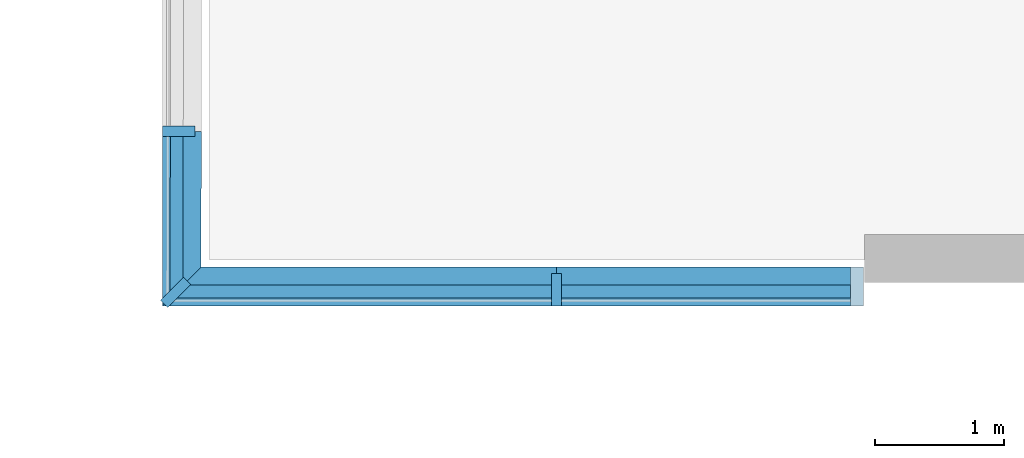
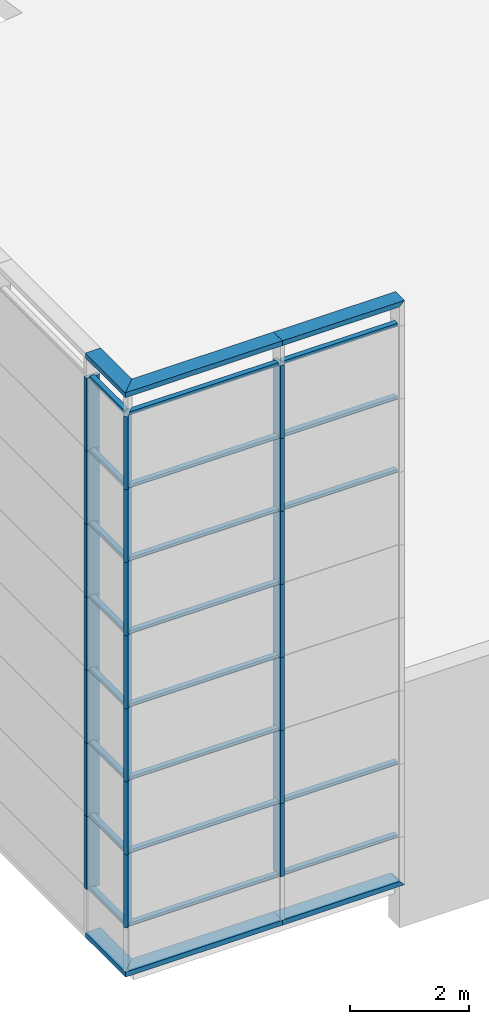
# One storey, part 1 of 27: 48 members, 1 element without a shape of its own.
"""IFC2X3 building model written with IfcOpenShell, lengths in metres."""

from ifc_helpers import new_model, entity, si_unit, converted_unit, money_unit, direction, frame, origin_with_axes, place, context, subcontext, project, spatial, polyline, outline, extrude, clip, halfspace, material, type_object, element, aggregate, save


model = new_model("IFC2X3")

# Units and contexts
model_context = context("Model", 3, precision=1e-05, world=origin_with_axes(), true_north=direction((0.0, 1.0)))
body_context = subcontext(model_context, "Body", "Model", "MODEL_VIEW")
ifc_project = project(units=[si_unit("LENGTHUNIT", "METRE"), si_unit("AREAUNIT", "SQUARE_METRE"), si_unit("VOLUMEUNIT", "CUBIC_METRE"), converted_unit("PLANEANGLEUNIT", "DEGREE", entity("IfcPlaneAngleMeasure", 0.0174532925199), si_unit("PLANEANGLEUNIT", "RADIAN"), dimensions=[0, 0, 0, 0, 0, 0, 0]), si_unit("SOLIDANGLEUNIT", "STERADIAN"), money_unit("EUR"), converted_unit("TIMEUNIT", "Year", entity("IfcTimeMeasure", 31556926.0), si_unit("TIMEUNIT", "SECOND"), dimensions=[0, 0, 0, 0, 0, 0, 0]), si_unit("MASSUNIT", "GRAM"), si_unit("THERMODYNAMICTEMPERATUREUNIT", "DEGREE_CELSIUS"), si_unit("LUMINOUSINTENSITYUNIT", "LUMEN")], contexts=[model_context])

# Site, building, storey
site_placement = place(None, origin_with_axes())
site = spatial("IfcSite", under=ifc_project, at=site_placement, Name="Undefined", CompositionType="ELEMENT")
building_placement = place(site_placement, origin_with_axes())
building = spatial("IfcBuilding", under=site, at=building_placement, Name="Undefined", CompositionType="ELEMENT")
storey_placement = place(building_placement, frame((0.0, 0.0, 5.4), z_axis=(0.0, 0.0, 1.0), x_axis=(1.0, 0.0, 0.0)))
storey = spatial("IfcBuildingStorey", under=building, at=storey_placement, Name="R+1", CompositionType="ELEMENT", Elevation=5.4)

# Curtain wall, members
curtain_wall_type = type_object("IfcCurtainWallType", Name="Type de mur-rideau", PredefinedType="NOTDEFINED")
curtain_wall_placement = place(storey_placement, frame((-0.508840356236, 0.150119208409, 0.0), z_axis=(0.0, 0.0, 1.0), x_axis=(1.0, 0.0, 0.0)))
curtain_wall = element("IfcCurtainWall", 1, at=curtain_wall_placement, inside=storey, type_object=curtain_wall_type, Name="CurtainWall_01", ObjectType="CURTAIN WALL")
ifc_material = material(Name="25 % 359672764")
member_type_1 = type_object("IfcMemberType", Name="Cadre 100 x 300", PredefinedType="NOTDEFINED")
member_1_placement = place(curtain_wall_placement, frame((0.00086430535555, 0.650119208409, 0.0), z_axis=(-0.00132945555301, -0.999999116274, 0.0), x_axis=(0.0, 0.0, 1.0)))
member_1 = element("IfcMember", 2, at=member_1_placement, type_object=member_type_1, material=ifc_material, Name="Frame-Bnd-833", context=body_context, shape_type="Clipping", body=[
    clip(extrude(outline(polyline([(-0.25, -0.1), (0.05, -0.1), (0.05, 0.0), (-0.25, 0.0), (-0.25, -0.1)])), frame((0.0, 0.0, 0.0), z_axis=(0.0, 0.0, 1.0), x_axis=(0.0, 1.0, 0.0)), (0.0, 0.0, 1.0), 1.3503060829), halfspace(frame((0.0, -0.650119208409, 0.649255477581), z_axis=(0.0, 0.707576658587, -0.706636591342), x_axis=(0.0, 0.706636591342, 0.707576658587)), True)),
])
member_2_placement = place(curtain_wall_placement, frame((2.99946827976, -0.650119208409, 12.0000000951), z_axis=(-1.0, 0.0, -3.17092450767e-08), x_axis=(3.17092450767e-08, 0.0, -1.0)))
member_2 = element("IfcMember", 3, at=member_2_placement, type_object=member_type_1, material=ifc_material, Name="Frame-Bnd-985", context=body_context, shape_type="Clipping", body=[
    clip(extrude(outline(polyline([(0.25, 0.1), (-0.05, 0.1), (-0.05, 0.0), (0.25, 0.0), (0.25, 0.1)])), frame((0.0, 0.0, 0.0), z_axis=(0.0, 0.0, 1.0), x_axis=(0.0, -1.0, 0.0)), (0.0, 0.0, 1.0), 3.05039910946), halfspace(frame((-1.09703552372e-07, -1.50016496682, 1.49817188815), z_axis=(5.17434247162e-08, 0.707576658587, -0.706636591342), x_axis=(0.0, 0.706636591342, 0.707576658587)), True)),
])
member_3_placement = place(curtain_wall_placement, frame((2.99946827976, -0.650119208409, 0.0), z_axis=(1.0, 0.0, 0.0), x_axis=(0.0, 0.0, 1.0)))
member_3 = element("IfcMember", 4, at=member_3_placement, type_object=member_type_1, material=ifc_material, Name="Frame-Bnd-890", context=body_context, shape_type="Clipping", body=[
    clip(extrude(outline(polyline([(-0.25, -0.1), (0.05, -0.1), (0.05, 0.0), (-0.25, 0.0), (-0.25, -0.1)])), frame((0.0, 0.0, 0.0), z_axis=(0.0, 0.0, 1.0), x_axis=(0.0, 1.0, 0.0)), (0.0, 0.0, 1.0), 2.37499991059), halfspace(frame((1.1874999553, 0.0, 1.18750006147), z_axis=(-0.707106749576, 0.0, -0.707106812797), x_axis=(0.0, 1.0, 0.0)), True)),
])
member_4_placement = place(curtain_wall_placement, frame((-0.00086430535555, -0.650119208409, 12.0), z_axis=(0.00132945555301, 0.999999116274, 7.31697493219e-08), x_axis=(0.0, 7.31696846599e-08, -1.0)))
member_4 = element("IfcMember", 5, at=member_4_placement, type_object=member_type_1, material=ifc_material, Name="Frame-Bnd-936", context=body_context, shape_type="Clipping", body=[
    clip(extrude(outline(polyline([(0.25, 0.1), (-0.05, 0.1), (-0.05, 0.0), (0.25, 0.0), (0.25, 0.1)])), frame((0.0, 0.0, -0.0500665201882), z_axis=(0.0, 0.0, 1.0), x_axis=(0.0, -1.0, 0.0)), (0.0, 0.0, 1.0), 1.35030608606), halfspace(frame((0.0, 0.0, 0.0), z_axis=(2.23679111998e-08, 0.707576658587, 0.706636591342), x_axis=(0.0, -0.706636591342, 0.707576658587)), True)),
])
member_5_placement = place(curtain_wall_placement, frame((5.37446817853, -0.650119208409, 12.0000000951), z_axis=(-1.0, 0.0, 0.0), x_axis=(0.0, 0.0, -1.0)))
member_5 = element("IfcMember", 6, at=member_5_placement, type_object=member_type_1, material=ifc_material, Name="Frame-Bnd-986", context=body_context, shape_type="Clipping", body=[
    clip(extrude(outline(polyline([(0.25, 0.1), (-0.05, 0.1), (-0.05, 0.0), (0.25, 0.0), (0.25, 0.1)])), frame((0.0, 0.0, 0.0), z_axis=(0.0, 0.0, 1.0), x_axis=(0.0, -1.0, 0.0)), (0.0, 0.0, 1.0), 2.37499989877), halfspace(frame((0.0, 0.0, 0.0), z_axis=(-0.707106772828, 0.0, 0.707106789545), x_axis=(0.0, -1.0, 0.0)), True)),
])
member_6_placement = place(curtain_wall_placement, frame((-0.00086430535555, -0.650119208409, 0.0), z_axis=(1.0, 0.0, 0.0), x_axis=(0.0, 0.0, 1.0)))
member_6 = element("IfcMember", 7, at=member_6_placement, type_object=member_type_1, material=ifc_material, Name="Frame-Bnd-891", context=body_context, shape_type="Clipping", body=[
    clip(extrude(outline(polyline([(-0.25, -0.1), (0.05, -0.1), (0.05, 0.0), (-0.25, 0.0), (-0.25, -0.1)])), frame((0.0, 0.0, -0.0500665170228), z_axis=(0.0, 0.0, 1.0), x_axis=(0.0, 1.0, 0.0)), (0.0, 0.0, 1.0), 3.05039910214), halfspace(frame((0.0, 0.0, 0.0), z_axis=(0.0, 0.707576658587, 0.706636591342), x_axis=(0.0, -0.706636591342, 0.707576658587)), True)),
])
member_type_2 = type_object("IfcMemberType", Name="Montant 80 x 250", PredefinedType="NOTDEFINED")
member_7_placement = place(curtain_wall_placement, frame((-0.00086430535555, -0.650119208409, 1.00000002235), z_axis=(0.0, 0.0, 1.0), x_axis=(-0.706636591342, 0.707576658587, 0.0)))
member_7 = element("IfcMember", 8, at=member_7_placement, type_object=member_type_2, material=ifc_material, Name="Frame-Mll-361", context=body_context, shape_type="SweptSolid", body=[
    extrude(outline(polyline([(0.113249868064, 0.169630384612), (-0.063644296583, -0.00702876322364), (-0.00711336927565, -0.0636348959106), (0.169780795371, 0.113024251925), (0.113249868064, 0.169630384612)])), frame((0.0, 0.0, 0.0), z_axis=(0.0, 0.0, 1.0), x_axis=(-0.706636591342, -0.707576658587, 0.0)), (0.0, 0.0, 1.0), 1.5),
])
member_8_placement = place(curtain_wall_placement, frame((0.00086430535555, 0.650119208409, 1.00000002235), z_axis=(0.0, 0.0, 1.0), x_axis=(0.00132945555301, 0.999999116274, 0.0)))
member_8 = element("IfcMember", 9, at=member_8_placement, type_object=member_type_2, material=ifc_material, Name="Frame-Mll-134", context=body_context, shape_type="SweptSolid", body=[
    extrude(outline(polyline([(0.200053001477, 0.0397340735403), (-0.0499467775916, 0.0400664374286), (-0.0500531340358, -0.0399334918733), (0.199946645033, -0.0402658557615), (0.200053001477, 0.0397340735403)])), frame((0.0, 0.0, 0.0), z_axis=(0.0, 0.0, 1.0), x_axis=(0.00132945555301, -0.999999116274, 0.0)), (0.0, 0.0, 1.0), 1.5),
])
member_9_placement = place(curtain_wall_placement, frame((2.99946827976, -0.650119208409, 1.00000002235), z_axis=(0.0, 0.0, 1.0), x_axis=(-1.0, 0.0, 0.0)))
member_9 = element("IfcMember", 10, at=member_9_placement, type_object=member_type_2, material=ifc_material, Name="Frame-Mll-146", context=body_context, shape_type="SweptSolid", body=[
    extrude(outline(polyline([(-0.04, 0.2), (-0.04, -0.05), (0.04, -0.05), (0.04, 0.2), (-0.04, 0.2)])), frame((0.0, 0.0, 0.0), z_axis=(0.0, 0.0, 1.0), x_axis=(-1.0, 0.0, 0.0)), (0.0, 0.0, 1.0), 1.5),
])
member_10_placement = place(curtain_wall_placement, frame((-0.00086430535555, -0.650119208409, 2.50000002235), z_axis=(0.0, 0.0, 1.0), x_axis=(-0.706636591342, 0.707576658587, 0.0)))
member_10 = element("IfcMember", 11, at=member_10_placement, type_object=member_type_2, material=ifc_material, Name="Frame-Mll-361", context=body_context, shape_type="SweptSolid", body=[
    extrude(outline(polyline([(0.113249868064, 0.169630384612), (-0.063644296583, -0.00702876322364), (-0.00711336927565, -0.0636348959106), (0.169780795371, 0.113024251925), (0.113249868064, 0.169630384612)])), frame((0.0, 0.0, 0.0), z_axis=(0.0, 0.0, 1.0), x_axis=(-0.706636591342, -0.707576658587, 0.0)), (0.0, 0.0, 1.0), 1.5),
])
member_11_placement = place(curtain_wall_placement, frame((0.00086430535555, 0.650119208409, 2.50000002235), z_axis=(0.0, 0.0, 1.0), x_axis=(0.00132945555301, 0.999999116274, 0.0)))
member_11 = element("IfcMember", 12, at=member_11_placement, type_object=member_type_2, material=ifc_material, Name="Frame-Mll-173", context=body_context, shape_type="SweptSolid", body=[
    extrude(outline(polyline([(0.200053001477, 0.0397340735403), (-0.0499467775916, 0.0400664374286), (-0.0500531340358, -0.0399334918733), (0.199946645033, -0.0402658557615), (0.200053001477, 0.0397340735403)])), frame((0.0, 0.0, 0.0), z_axis=(0.0, 0.0, 1.0), x_axis=(0.00132945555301, -0.999999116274, 0.0)), (0.0, 0.0, 1.0), 1.5),
])
member_12_placement = place(curtain_wall_placement, frame((0.00086430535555, 0.650119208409, 4.00000002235), z_axis=(0.0, 0.0, 1.0), x_axis=(0.00132945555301, 0.999999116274, 0.0)))
member_12 = element("IfcMember", 13, at=member_12_placement, type_object=member_type_2, material=ifc_material, Name="Frame-Mll-174", context=body_context, shape_type="SweptSolid", body=[
    extrude(outline(polyline([(0.200053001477, 0.0397340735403), (-0.0499467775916, 0.0400664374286), (-0.0500531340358, -0.0399334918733), (0.199946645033, -0.0402658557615), (0.200053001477, 0.0397340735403)])), frame((0.0, 0.0, 0.0), z_axis=(0.0, 0.0, 1.0), x_axis=(0.00132945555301, -0.999999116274, 0.0)), (0.0, 0.0, 1.0), 1.5),
])
member_13_placement = place(curtain_wall_placement, frame((0.00086430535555, 0.650119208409, 5.50000002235), z_axis=(0.0, 0.0, 1.0), x_axis=(0.00132945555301, 0.999999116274, 0.0)))
member_13 = element("IfcMember", 14, at=member_13_placement, type_object=member_type_2, material=ifc_material, Name="Frame-Mll-175", context=body_context, shape_type="SweptSolid", body=[
    extrude(outline(polyline([(0.200053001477, 0.0397340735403), (-0.0499467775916, 0.0400664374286), (-0.0500531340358, -0.0399334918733), (0.199946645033, -0.0402658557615), (0.200053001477, 0.0397340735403)])), frame((0.0, 0.0, 0.0), z_axis=(0.0, 0.0, 1.0), x_axis=(0.00132945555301, -0.999999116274, 0.0)), (0.0, 0.0, 1.0), 1.5),
])
member_14_placement = place(curtain_wall_placement, frame((0.00086430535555, 0.650119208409, 7.00000002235), z_axis=(0.0, 0.0, 1.0), x_axis=(0.00132945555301, 0.999999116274, 0.0)))
member_14 = element("IfcMember", 15, at=member_14_placement, type_object=member_type_2, material=ifc_material, Name="Frame-Mll-176", context=body_context, shape_type="SweptSolid", body=[
    extrude(outline(polyline([(0.200053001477, 0.0397340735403), (-0.0499467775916, 0.0400664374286), (-0.0500531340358, -0.0399334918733), (0.199946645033, -0.0402658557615), (0.200053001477, 0.0397340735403)])), frame((0.0, 0.0, 0.0), z_axis=(0.0, 0.0, 1.0), x_axis=(0.00132945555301, -0.999999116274, 0.0)), (0.0, 0.0, 1.0), 1.5),
])
member_15_placement = place(curtain_wall_placement, frame((0.00086430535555, 0.650119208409, 8.50000002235), z_axis=(0.0, 0.0, 1.0), x_axis=(0.00132945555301, 0.999999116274, 0.0)))
member_15 = element("IfcMember", 16, at=member_15_placement, type_object=member_type_2, material=ifc_material, Name="Frame-Mll-177", context=body_context, shape_type="SweptSolid", body=[
    extrude(outline(polyline([(0.200053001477, 0.0397340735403), (-0.0499467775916, 0.0400664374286), (-0.0500531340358, -0.0399334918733), (0.199946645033, -0.0402658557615), (0.200053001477, 0.0397340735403)])), frame((0.0, 0.0, 0.0), z_axis=(0.0, 0.0, 1.0), x_axis=(0.00132945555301, -0.999999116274, 0.0)), (0.0, 0.0, 1.0), 1.5),
])
member_16_placement = place(curtain_wall_placement, frame((0.00086430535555, 0.650119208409, 10.0000000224), z_axis=(0.0, 0.0, 1.0), x_axis=(0.00132945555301, 0.999999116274, 0.0)))
member_16 = element("IfcMember", 17, at=member_16_placement, type_object=member_type_2, material=ifc_material, Name="Frame-Mll-178", context=body_context, shape_type="SweptSolid", body=[
    extrude(outline(polyline([(0.200053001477, 0.0397340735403), (-0.0499467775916, 0.0400664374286), (-0.0500531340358, -0.0399334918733), (0.199946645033, -0.0402658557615), (0.200053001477, 0.0397340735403)])), frame((0.0, 0.0, 0.0), z_axis=(0.0, 0.0, 1.0), x_axis=(0.00132945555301, -0.999999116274, 0.0)), (0.0, 0.0, 1.0), 1.5),
])
member_17_placement = place(curtain_wall_placement, frame((-0.00086430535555, -0.650119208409, 4.00000002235), z_axis=(0.0, 0.0, 1.0), x_axis=(-0.706636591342, 0.707576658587, 0.0)))
member_17 = element("IfcMember", 18, at=member_17_placement, type_object=member_type_2, material=ifc_material, Name="Frame-Mll-361", context=body_context, shape_type="SweptSolid", body=[
    extrude(outline(polyline([(0.113249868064, 0.169630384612), (-0.063644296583, -0.00702876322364), (-0.00711336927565, -0.0636348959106), (0.169780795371, 0.113024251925), (0.113249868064, 0.169630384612)])), frame((0.0, 0.0, 0.0), z_axis=(0.0, 0.0, 1.0), x_axis=(-0.706636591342, -0.707576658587, 0.0)), (0.0, 0.0, 1.0), 1.5),
])
member_18_placement = place(curtain_wall_placement, frame((-0.00086430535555, -0.650119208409, 5.50000002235), z_axis=(0.0, 0.0, 1.0), x_axis=(-0.706636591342, 0.707576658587, 0.0)))
member_18 = element("IfcMember", 19, at=member_18_placement, type_object=member_type_2, material=ifc_material, Name="Frame-Mll-361", context=body_context, shape_type="SweptSolid", body=[
    extrude(outline(polyline([(0.113249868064, 0.169630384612), (-0.063644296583, -0.00702876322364), (-0.00711336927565, -0.0636348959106), (0.169780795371, 0.113024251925), (0.113249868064, 0.169630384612)])), frame((0.0, 0.0, 0.0), z_axis=(0.0, 0.0, 1.0), x_axis=(-0.706636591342, -0.707576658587, 0.0)), (0.0, 0.0, 1.0), 1.5),
])
member_19_placement = place(curtain_wall_placement, frame((-0.00086430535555, -0.650119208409, 7.00000002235), z_axis=(0.0, 0.0, 1.0), x_axis=(-0.706636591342, 0.707576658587, 0.0)))
member_19 = element("IfcMember", 20, at=member_19_placement, type_object=member_type_2, material=ifc_material, Name="Frame-Mll-361", context=body_context, shape_type="SweptSolid", body=[
    extrude(outline(polyline([(0.113249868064, 0.169630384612), (-0.063644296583, -0.00702876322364), (-0.00711336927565, -0.0636348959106), (0.169780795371, 0.113024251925), (0.113249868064, 0.169630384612)])), frame((0.0, 0.0, 0.0), z_axis=(0.0, 0.0, 1.0), x_axis=(-0.706636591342, -0.707576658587, 0.0)), (0.0, 0.0, 1.0), 1.5),
])
member_20_placement = place(curtain_wall_placement, frame((-0.00086430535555, -0.650119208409, 8.50000002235), z_axis=(0.0, 0.0, 1.0), x_axis=(-0.706636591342, 0.707576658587, 0.0)))
member_20 = element("IfcMember", 21, at=member_20_placement, type_object=member_type_2, material=ifc_material, Name="Frame-Mll-361", context=body_context, shape_type="SweptSolid", body=[
    extrude(outline(polyline([(0.113249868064, 0.169630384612), (-0.063644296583, -0.00702876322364), (-0.00711336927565, -0.0636348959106), (0.169780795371, 0.113024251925), (0.113249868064, 0.169630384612)])), frame((0.0, 0.0, 0.0), z_axis=(0.0, 0.0, 1.0), x_axis=(-0.706636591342, -0.707576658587, 0.0)), (0.0, 0.0, 1.0), 1.5),
])
member_21_placement = place(curtain_wall_placement, frame((2.99946827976, -0.650119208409, 2.50000002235), z_axis=(0.0, 0.0, 1.0), x_axis=(-1.0, 0.0, 0.0)))
member_21 = element("IfcMember", 22, at=member_21_placement, type_object=member_type_2, material=ifc_material, Name="Frame-Mll-201", context=body_context, shape_type="SweptSolid", body=[
    extrude(outline(polyline([(-0.04, 0.2), (-0.04, -0.05), (0.04, -0.05), (0.04, 0.2), (-0.04, 0.2)])), frame((0.0, 0.0, 0.0), z_axis=(0.0, 0.0, 1.0), x_axis=(-1.0, 0.0, 0.0)), (0.0, 0.0, 1.0), 1.5),
])
member_22_placement = place(curtain_wall_placement, frame((2.99946827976, -0.650119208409, 4.00000002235), z_axis=(0.0, 0.0, 1.0), x_axis=(-1.0, 0.0, 0.0)))
member_22 = element("IfcMember", 23, at=member_22_placement, type_object=member_type_2, material=ifc_material, Name="Frame-Mll-202", context=body_context, shape_type="SweptSolid", body=[
    extrude(outline(polyline([(-0.04, 0.2), (-0.04, -0.05), (0.04, -0.05), (0.04, 0.2), (-0.04, 0.2)])), frame((0.0, 0.0, 0.0), z_axis=(0.0, 0.0, 1.0), x_axis=(-1.0, 0.0, 0.0)), (0.0, 0.0, 1.0), 1.5),
])
member_23_placement = place(curtain_wall_placement, frame((2.99946827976, -0.650119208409, 5.50000002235), z_axis=(0.0, 0.0, 1.0), x_axis=(-1.0, 0.0, 0.0)))
member_23 = element("IfcMember", 24, at=member_23_placement, type_object=member_type_2, material=ifc_material, Name="Frame-Mll-203", context=body_context, shape_type="SweptSolid", body=[
    extrude(outline(polyline([(-0.04, 0.2), (-0.04, -0.05), (0.04, -0.05), (0.04, 0.2), (-0.04, 0.2)])), frame((0.0, 0.0, 0.0), z_axis=(0.0, 0.0, 1.0), x_axis=(-1.0, 0.0, 0.0)), (0.0, 0.0, 1.0), 1.5),
])
member_24_placement = place(curtain_wall_placement, frame((2.99946827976, -0.650119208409, 7.00000002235), z_axis=(0.0, 0.0, 1.0), x_axis=(-1.0, 0.0, 0.0)))
member_24 = element("IfcMember", 25, at=member_24_placement, type_object=member_type_2, material=ifc_material, Name="Frame-Mll-204", context=body_context, shape_type="SweptSolid", body=[
    extrude(outline(polyline([(-0.04, 0.2), (-0.04, -0.05), (0.04, -0.05), (0.04, 0.2), (-0.04, 0.2)])), frame((0.0, 0.0, 0.0), z_axis=(0.0, 0.0, 1.0), x_axis=(-1.0, 0.0, 0.0)), (0.0, 0.0, 1.0), 1.5),
])
member_25_placement = place(curtain_wall_placement, frame((2.99946827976, -0.650119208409, 8.50000002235), z_axis=(0.0, 0.0, 1.0), x_axis=(-1.0, 0.0, 0.0)))
member_25 = element("IfcMember", 26, at=member_25_placement, type_object=member_type_2, material=ifc_material, Name="Frame-Mll-205", context=body_context, shape_type="SweptSolid", body=[
    extrude(outline(polyline([(-0.04, 0.2), (-0.04, -0.05), (0.04, -0.05), (0.04, 0.2), (-0.04, 0.2)])), frame((0.0, 0.0, 0.0), z_axis=(0.0, 0.0, 1.0), x_axis=(-1.0, 0.0, 0.0)), (0.0, 0.0, 1.0), 1.5),
])
member_26_placement = place(curtain_wall_placement, frame((2.99946827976, -0.650119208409, 10.0000000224), z_axis=(0.0, 0.0, 1.0), x_axis=(-1.0, 0.0, 0.0)))
member_26 = element("IfcMember", 27, at=member_26_placement, type_object=member_type_2, material=ifc_material, Name="Frame-Mll-206", context=body_context, shape_type="SweptSolid", body=[
    extrude(outline(polyline([(-0.04, 0.2), (-0.04, -0.05), (0.04, -0.05), (0.04, 0.2), (-0.04, 0.2)])), frame((0.0, 0.0, 0.0), z_axis=(0.0, 0.0, 1.0), x_axis=(-1.0, 0.0, 0.0)), (0.0, 0.0, 1.0), 1.5),
])
member_27_placement = place(curtain_wall_placement, frame((-0.00086430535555, -0.650119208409, 10.0000000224), z_axis=(0.0, 0.0, 1.0), x_axis=(-0.706636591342, 0.707576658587, 0.0)))
member_27 = element("IfcMember", 28, at=member_27_placement, type_object=member_type_2, material=ifc_material, Name="Frame-Mll-361", context=body_context, shape_type="SweptSolid", body=[
    extrude(outline(polyline([(0.113249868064, 0.169630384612), (-0.063644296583, -0.00702876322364), (-0.00711336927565, -0.0636348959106), (0.169780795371, 0.113024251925), (0.113249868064, 0.169630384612)])), frame((0.0, 0.0, 0.0), z_axis=(0.0, 0.0, 1.0), x_axis=(-0.706636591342, -0.707576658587, 0.0)), (0.0, 0.0, 1.0), 1.5),
])
member_type_3 = type_object("IfcMemberType", Name="Traverse 60 x 100", PredefinedType="NOTDEFINED")
member_28_placement = place(curtain_wall_placement, frame((0.00086430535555, 0.650119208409, 1.00000002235), z_axis=(-0.00132945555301, -0.999999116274, 0.0), x_axis=(0.0, 0.0, 1.0)))
member_28 = element("IfcMember", 29, at=member_28_placement, type_object=member_type_3, material=ifc_material, Name="Frame-Trs-424", context=body_context, shape_type="Clipping", body=[
    clip(extrude(outline(polyline([(-0.11, -0.03), (-0.01, -0.03), (-0.01, 0.03), (-0.11, 0.03), (-0.11, -0.03)])), frame((0.0, 0.0, 0.04), z_axis=(0.0, 0.0, 1.0), x_axis=(0.0, 1.0, 0.0)), (0.0, 0.0, 1.0), 1.19362007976), halfspace(frame((0.0, -0.621816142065, 0.620990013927), z_axis=(0.0, 0.707576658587, -0.706636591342), x_axis=(0.0, 0.706636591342, 0.707576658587)), True)),
])
member_29_placement = place(curtain_wall_placement, frame((0.00086430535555, 0.650119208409, 2.50000002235), z_axis=(-0.00132945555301, -0.999999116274, 0.0), x_axis=(0.0, 0.0, 1.0)))
member_29 = element("IfcMember", 30, at=member_29_placement, type_object=member_type_3, material=ifc_material, Name="Frame-Trs-427", context=body_context, shape_type="Clipping", body=[
    clip(extrude(outline(polyline([(-0.11, -0.03), (-0.01, -0.03), (-0.01, 0.03), (-0.11, 0.03), (-0.11, -0.03)])), frame((0.0, 0.0, 0.04), z_axis=(0.0, 0.0, 1.0), x_axis=(0.0, 1.0, 0.0)), (0.0, 0.0, 1.0), 1.19362007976), halfspace(frame((0.0, -0.621816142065, 0.620990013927), z_axis=(0.0, 0.707576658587, -0.706636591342), x_axis=(0.0, 0.706636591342, 0.707576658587)), True)),
])
member_30_placement = place(curtain_wall_placement, frame((-0.00086430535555, -0.650119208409, 1.00000002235), z_axis=(1.0, 0.0, 0.0), x_axis=(0.0, 0.0, 1.0)))
member_30 = element("IfcMember", 31, at=member_30_placement, type_object=member_type_3, material=ifc_material, Name="Frame-Trs-432", context=body_context, shape_type="Clipping", body=[
    clip(extrude(outline(polyline([(-0.11, -0.03), (-0.01, -0.03), (-0.01, 0.03), (-0.11, 0.03), (-0.11, -0.03)])), frame((0.0, 0.0, 0.0666194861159), z_axis=(0.0, 0.0, 1.0), x_axis=(0.0, 1.0, 0.0)), (0.0, 0.0, 1.0), 2.893713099), halfspace(frame((0.0, 0.0283030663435, 0.0282654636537), z_axis=(0.0, 0.707576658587, 0.706636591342), x_axis=(0.0, -0.706636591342, 0.707576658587)), True)),
])
member_31_placement = place(curtain_wall_placement, frame((-0.00086430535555, -0.650119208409, 2.50000002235), z_axis=(1.0, 0.0, 0.0), x_axis=(0.0, 0.0, 1.0)))
member_31 = element("IfcMember", 32, at=member_31_placement, type_object=member_type_3, material=ifc_material, Name="Frame-Trs-434", context=body_context, shape_type="Clipping", body=[
    clip(extrude(outline(polyline([(-0.11, -0.03), (-0.01, -0.03), (-0.01, 0.03), (-0.11, 0.03), (-0.11, -0.03)])), frame((0.0, 0.0, 0.0666194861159), z_axis=(0.0, 0.0, 1.0), x_axis=(0.0, 1.0, 0.0)), (0.0, 0.0, 1.0), 2.893713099), halfspace(frame((0.0, 0.0283030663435, 0.0282654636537), z_axis=(0.0, 0.707576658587, 0.706636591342), x_axis=(0.0, -0.706636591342, 0.707576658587)), True)),
])
member_32_placement = place(curtain_wall_placement, frame((2.99946827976, -0.650119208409, 2.50000002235), z_axis=(1.0, 0.0, 0.0), x_axis=(0.0, 0.0, 1.0)))
member_32 = element("IfcMember", 33, at=member_32_placement, type_object=member_type_3, material=ifc_material, Name="Frame-Trs-436", context=body_context, shape_type="SweptSolid", body=[
    extrude(outline(polyline([(-0.11, -0.03), (-0.01, -0.03), (-0.01, 0.03), (-0.11, 0.03), (-0.11, -0.03)])), frame((0.0, 0.0, 0.04), z_axis=(0.0, 0.0, 1.0), x_axis=(0.0, 1.0, 0.0)), (0.0, 0.0, 1.0), 2.235),
])
member_33_placement = place(curtain_wall_placement, frame((2.99946827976, -0.650119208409, 1.00000002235), z_axis=(1.0, 0.0, 0.0), x_axis=(0.0, 0.0, 1.0)))
member_33 = element("IfcMember", 34, at=member_33_placement, type_object=member_type_3, material=ifc_material, Name="Frame-Trs-437", context=body_context, shape_type="SweptSolid", body=[
    extrude(outline(polyline([(-0.11, -0.03), (-0.01, -0.03), (-0.01, 0.03), (-0.11, 0.03), (-0.11, -0.03)])), frame((0.0, 0.0, 0.04), z_axis=(0.0, 0.0, 1.0), x_axis=(0.0, 1.0, 0.0)), (0.0, 0.0, 1.0), 2.235),
])
member_34_placement = place(curtain_wall_placement, frame((0.00086430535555, 0.650119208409, 4.00000002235), z_axis=(-0.00132945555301, -0.999999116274, 0.0), x_axis=(0.0, 0.0, 1.0)))
member_34 = element("IfcMember", 35, at=member_34_placement, type_object=member_type_3, material=ifc_material, Name="Frame-Trs-448", context=body_context, shape_type="Clipping", body=[
    clip(extrude(outline(polyline([(-0.11, -0.03), (-0.01, -0.03), (-0.01, 0.03), (-0.11, 0.03), (-0.11, -0.03)])), frame((0.0, 0.0, 0.04), z_axis=(0.0, 0.0, 1.0), x_axis=(0.0, 1.0, 0.0)), (0.0, 0.0, 1.0), 1.19362007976), halfspace(frame((0.0, -0.621816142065, 0.620990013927), z_axis=(0.0, 0.707576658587, -0.706636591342), x_axis=(0.0, 0.706636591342, 0.707576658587)), True)),
])
member_35_placement = place(curtain_wall_placement, frame((0.00086430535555, 0.650119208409, 5.50000002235), z_axis=(-0.00132945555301, -0.999999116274, 0.0), x_axis=(0.0, 0.0, 1.0)))
member_35 = element("IfcMember", 36, at=member_35_placement, type_object=member_type_3, material=ifc_material, Name="Frame-Trs-451", context=body_context, shape_type="Clipping", body=[
    clip(extrude(outline(polyline([(-0.11, -0.03), (-0.01, -0.03), (-0.01, 0.03), (-0.11, 0.03), (-0.11, -0.03)])), frame((0.0, 0.0, 0.04), z_axis=(0.0, 0.0, 1.0), x_axis=(0.0, 1.0, 0.0)), (0.0, 0.0, 1.0), 1.19362007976), halfspace(frame((0.0, -0.621816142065, 0.620990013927), z_axis=(0.0, 0.707576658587, -0.706636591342), x_axis=(0.0, 0.706636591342, 0.707576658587)), True)),
])
member_36_placement = place(curtain_wall_placement, frame((0.00086430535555, 0.650119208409, 7.00000002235), z_axis=(-0.00132945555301, -0.999999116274, 0.0), x_axis=(0.0, 0.0, 1.0)))
member_36 = element("IfcMember", 37, at=member_36_placement, type_object=member_type_3, material=ifc_material, Name="Frame-Trs-454", context=body_context, shape_type="Clipping", body=[
    clip(extrude(outline(polyline([(-0.11, -0.03), (-0.01, -0.03), (-0.01, 0.03), (-0.11, 0.03), (-0.11, -0.03)])), frame((0.0, 0.0, 0.04), z_axis=(0.0, 0.0, 1.0), x_axis=(0.0, 1.0, 0.0)), (0.0, 0.0, 1.0), 1.19362007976), halfspace(frame((0.0, -0.621816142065, 0.620990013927), z_axis=(0.0, 0.707576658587, -0.706636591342), x_axis=(0.0, 0.706636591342, 0.707576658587)), True)),
])
member_37_placement = place(curtain_wall_placement, frame((0.00086430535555, 0.650119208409, 8.50000002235), z_axis=(-0.00132945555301, -0.999999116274, 0.0), x_axis=(0.0, 0.0, 1.0)))
member_37 = element("IfcMember", 38, at=member_37_placement, type_object=member_type_3, material=ifc_material, Name="Frame-Trs-457", context=body_context, shape_type="Clipping", body=[
    clip(extrude(outline(polyline([(-0.11, -0.03), (-0.01, -0.03), (-0.01, 0.03), (-0.11, 0.03), (-0.11, -0.03)])), frame((0.0, 0.0, 0.04), z_axis=(0.0, 0.0, 1.0), x_axis=(0.0, 1.0, 0.0)), (0.0, 0.0, 1.0), 1.19362007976), halfspace(frame((0.0, -0.621816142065, 0.620990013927), z_axis=(0.0, 0.707576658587, -0.706636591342), x_axis=(0.0, 0.706636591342, 0.707576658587)), True)),
])
member_38_placement = place(curtain_wall_placement, frame((0.00086430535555, 0.650119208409, 10.0000000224), z_axis=(-0.00132945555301, -0.999999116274, 0.0), x_axis=(0.0, 0.0, 1.0)))
member_38 = element("IfcMember", 39, at=member_38_placement, type_object=member_type_3, material=ifc_material, Name="Frame-Trs-460", context=body_context, shape_type="Clipping", body=[
    clip(extrude(outline(polyline([(-0.11, -0.03), (-0.01, -0.03), (-0.01, 0.03), (-0.11, 0.03), (-0.11, -0.03)])), frame((0.0, 0.0, 0.04), z_axis=(0.0, 0.0, 1.0), x_axis=(0.0, 1.0, 0.0)), (0.0, 0.0, 1.0), 1.19362007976), halfspace(frame((0.0, -0.621816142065, 0.620990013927), z_axis=(0.0, 0.707576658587, -0.706636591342), x_axis=(0.0, 0.706636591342, 0.707576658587)), True)),
])
member_39_placement = place(curtain_wall_placement, frame((0.00086430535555, 0.650119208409, 11.5000000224), z_axis=(-0.00132945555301, -0.999999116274, 0.0), x_axis=(0.0, 0.0, 1.0)))
member_39 = element("IfcMember", 40, at=member_39_placement, type_object=member_type_3, material=ifc_material, Name="Frame-Trs-463", context=body_context, shape_type="Clipping", body=[
    clip(extrude(outline(polyline([(-0.11, -0.03), (-0.01, -0.03), (-0.01, 0.03), (-0.11, 0.03), (-0.11, -0.03)])), frame((0.0, 0.0, 0.04), z_axis=(0.0, 0.0, 1.0), x_axis=(0.0, 1.0, 0.0)), (0.0, 0.0, 1.0), 1.19362007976), halfspace(frame((0.0, -0.621816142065, 0.620990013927), z_axis=(0.0, 0.707576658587, -0.706636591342), x_axis=(0.0, 0.706636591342, 0.707576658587)), True)),
])
member_40_placement = place(curtain_wall_placement, frame((-0.00086430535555, -0.650119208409, 4.00000002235), z_axis=(1.0, 0.0, 0.0), x_axis=(0.0, 0.0, 1.0)))
member_40 = element("IfcMember", 41, at=member_40_placement, type_object=member_type_3, material=ifc_material, Name="Frame-Trs-471", context=body_context, shape_type="Clipping", body=[
    clip(extrude(outline(polyline([(-0.11, -0.03), (-0.01, -0.03), (-0.01, 0.03), (-0.11, 0.03), (-0.11, -0.03)])), frame((0.0, 0.0, 0.0666194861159), z_axis=(0.0, 0.0, 1.0), x_axis=(0.0, 1.0, 0.0)), (0.0, 0.0, 1.0), 2.893713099), halfspace(frame((0.0, 0.0283030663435, 0.0282654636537), z_axis=(0.0, 0.707576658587, 0.706636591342), x_axis=(0.0, -0.706636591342, 0.707576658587)), True)),
])
member_41_placement = place(curtain_wall_placement, frame((-0.00086430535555, -0.650119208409, 5.50000002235), z_axis=(1.0, 0.0, 0.0), x_axis=(0.0, 0.0, 1.0)))
member_41 = element("IfcMember", 42, at=member_41_placement, type_object=member_type_3, material=ifc_material, Name="Frame-Trs-473", context=body_context, shape_type="Clipping", body=[
    clip(extrude(outline(polyline([(-0.11, -0.03), (-0.01, -0.03), (-0.01, 0.03), (-0.11, 0.03), (-0.11, -0.03)])), frame((0.0, 0.0, 0.0666194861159), z_axis=(0.0, 0.0, 1.0), x_axis=(0.0, 1.0, 0.0)), (0.0, 0.0, 1.0), 2.893713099), halfspace(frame((0.0, 0.0283030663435, 0.0282654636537), z_axis=(0.0, 0.707576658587, 0.706636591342), x_axis=(0.0, -0.706636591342, 0.707576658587)), True)),
])
member_42_placement = place(curtain_wall_placement, frame((-0.00086430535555, -0.650119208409, 7.00000002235), z_axis=(1.0, 0.0, 0.0), x_axis=(0.0, 0.0, 1.0)))
member_42 = element("IfcMember", 43, at=member_42_placement, type_object=member_type_3, material=ifc_material, Name="Frame-Trs-475", context=body_context, shape_type="Clipping", body=[
    clip(extrude(outline(polyline([(-0.11, -0.03), (-0.01, -0.03), (-0.01, 0.03), (-0.11, 0.03), (-0.11, -0.03)])), frame((0.0, 0.0, 0.0666194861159), z_axis=(0.0, 0.0, 1.0), x_axis=(0.0, 1.0, 0.0)), (0.0, 0.0, 1.0), 2.893713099), halfspace(frame((0.0, 0.0283030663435, 0.0282654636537), z_axis=(0.0, 0.707576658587, 0.706636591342), x_axis=(0.0, -0.706636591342, 0.707576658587)), True)),
])
member_43_placement = place(curtain_wall_placement, frame((-0.00086430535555, -0.650119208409, 8.50000002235), z_axis=(1.0, 0.0, 0.0), x_axis=(0.0, 0.0, 1.0)))
member_43 = element("IfcMember", 44, at=member_43_placement, type_object=member_type_3, material=ifc_material, Name="Frame-Trs-477", context=body_context, shape_type="Clipping", body=[
    clip(extrude(outline(polyline([(-0.11, -0.03), (-0.01, -0.03), (-0.01, 0.03), (-0.11, 0.03), (-0.11, -0.03)])), frame((0.0, 0.0, 0.0666194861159), z_axis=(0.0, 0.0, 1.0), x_axis=(0.0, 1.0, 0.0)), (0.0, 0.0, 1.0), 2.893713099), halfspace(frame((0.0, 0.0283030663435, 0.0282654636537), z_axis=(0.0, 0.707576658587, 0.706636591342), x_axis=(0.0, -0.706636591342, 0.707576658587)), True)),
])
member_44_placement = place(curtain_wall_placement, frame((-0.00086430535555, -0.650119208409, 10.0000000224), z_axis=(1.0, 0.0, 0.0), x_axis=(0.0, 0.0, 1.0)))
member_44 = element("IfcMember", 45, at=member_44_placement, type_object=member_type_3, material=ifc_material, Name="Frame-Trs-479", context=body_context, shape_type="Clipping", body=[
    clip(extrude(outline(polyline([(-0.11, -0.03), (-0.01, -0.03), (-0.01, 0.03), (-0.11, 0.03), (-0.11, -0.03)])), frame((0.0, 0.0, 0.0666194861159), z_axis=(0.0, 0.0, 1.0), x_axis=(0.0, 1.0, 0.0)), (0.0, 0.0, 1.0), 2.893713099), halfspace(frame((0.0, 0.0283030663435, 0.0282654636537), z_axis=(0.0, 0.707576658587, 0.706636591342), x_axis=(0.0, -0.706636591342, 0.707576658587)), True)),
])
member_45_placement = place(curtain_wall_placement, frame((-0.00086430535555, -0.650119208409, 11.5000000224), z_axis=(1.0, 0.0, 0.0), x_axis=(0.0, 0.0, 1.0)))
member_45 = element("IfcMember", 46, at=member_45_placement, type_object=member_type_3, material=ifc_material, Name="Frame-Trs-481", context=body_context, shape_type="Clipping", body=[
    clip(extrude(outline(polyline([(-0.11, -0.03), (-0.01, -0.03), (-0.01, 0.03), (-0.11, 0.03), (-0.11, -0.03)])), frame((0.0, 0.0, 0.0666194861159), z_axis=(0.0, 0.0, 1.0), x_axis=(0.0, 1.0, 0.0)), (0.0, 0.0, 1.0), 2.893713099), halfspace(frame((0.0, 0.0283030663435, 0.0282654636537), z_axis=(0.0, 0.707576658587, 0.706636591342), x_axis=(0.0, -0.706636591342, 0.707576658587)), True)),
])
member_46_placement = place(curtain_wall_placement, frame((2.99946827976, -0.650119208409, 11.5000000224), z_axis=(1.0, 0.0, 0.0), x_axis=(0.0, 0.0, 1.0)))
member_46 = element("IfcMember", 47, at=member_46_placement, type_object=member_type_3, material=ifc_material, Name="Frame-Trs-485", context=body_context, shape_type="SweptSolid", body=[
    extrude(outline(polyline([(-0.11, -0.03), (-0.01, -0.03), (-0.01, 0.03), (-0.11, 0.03), (-0.11, -0.03)])), frame((0.0, 0.0, 0.04), z_axis=(0.0, 0.0, 1.0), x_axis=(0.0, 1.0, 0.0)), (0.0, 0.0, 1.0), 2.235),
])
member_47_placement = place(curtain_wall_placement, frame((2.99946827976, -0.650119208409, 10.0000000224), z_axis=(1.0, 0.0, 0.0), x_axis=(0.0, 0.0, 1.0)))
member_47 = element("IfcMember", 48, at=member_47_placement, type_object=member_type_3, material=ifc_material, Name="Frame-Trs-486", context=body_context, shape_type="SweptSolid", body=[
    extrude(outline(polyline([(-0.11, -0.03), (-0.01, -0.03), (-0.01, 0.03), (-0.11, 0.03), (-0.11, -0.03)])), frame((0.0, 0.0, 0.04), z_axis=(0.0, 0.0, 1.0), x_axis=(0.0, 1.0, 0.0)), (0.0, 0.0, 1.0), 2.235),
])
member_48_placement = place(curtain_wall_placement, frame((2.99946827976, -0.650119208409, 8.50000002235), z_axis=(1.0, 0.0, 0.0), x_axis=(0.0, 0.0, 1.0)))
member_48 = element("IfcMember", 49, at=member_48_placement, type_object=member_type_3, material=ifc_material, Name="Frame-Trs-487", context=body_context, shape_type="SweptSolid", body=[
    extrude(outline(polyline([(-0.11, -0.03), (-0.01, -0.03), (-0.01, 0.03), (-0.11, 0.03), (-0.11, -0.03)])), frame((0.0, 0.0, 0.04), z_axis=(0.0, 0.0, 1.0), x_axis=(0.0, 1.0, 0.0)), (0.0, 0.0, 1.0), 2.235),
])
aggregate(curtain_wall, [member_28, member_7, member_1, member_8, member_29, member_30, member_2, member_9, member_31, member_10, member_32, member_33, member_3, member_11, member_12, member_13, member_14, member_15, member_16, member_34, member_35, member_36, member_37, member_38, member_39, member_4, member_17, member_18, member_19, member_20, member_5, member_21, member_22, member_23, member_24, member_25, member_26, member_40, member_41, member_42, member_43, member_44, member_45, member_27, member_6, member_46, member_47, member_48])

save(model, "model.ifc")
